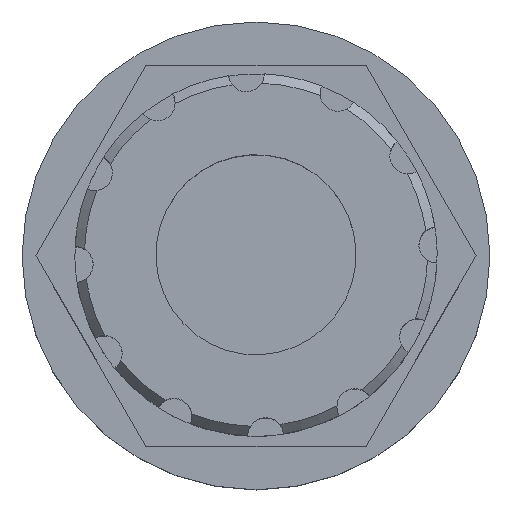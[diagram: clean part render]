
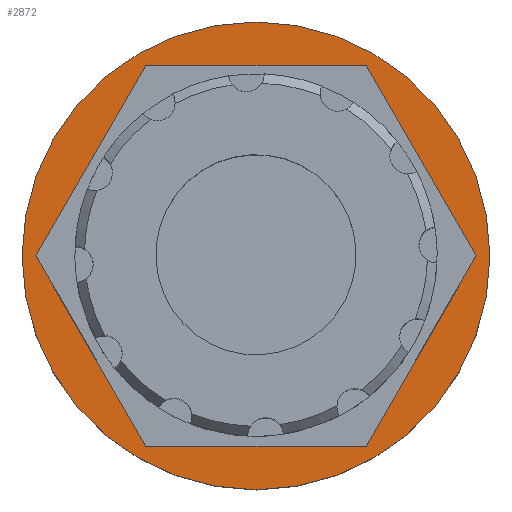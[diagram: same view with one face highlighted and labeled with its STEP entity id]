
A CAD part, top view. The second image highlights one B-rep face of the part: STEP entity #2872.
In plain terms, the highlighted planar face has unit normal (0, 0, 1).
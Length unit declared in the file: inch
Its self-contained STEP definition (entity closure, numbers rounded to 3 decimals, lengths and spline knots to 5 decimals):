
#45 = AXIS2_PLACEMENT_3D ( 'NONE', #1516, #1517, #1518 ) ;
#67 = AXIS2_PLACEMENT_3D ( 'NONE', #1639, #1640, #1641 ) ;
#103 = AXIS2_PLACEMENT_3D ( 'NONE', #219, #216, #223 ) ;
#216 = DIRECTION ( 'NONE',  ( 0., 0., 1. ) ) ;
#219 = CARTESIAN_POINT ( 'NONE',  ( -3.84531, -0.98367, -0.077 ) ) ;
#221 = PLANE ( 'NONE',  #103 ) ;
#223 = DIRECTION ( 'NONE',  ( 1., 0., 0. ) ) ;
#613 = VECTOR ( 'NONE', #1275, 39.37008 ) ;
#614 = LINE ( 'NONE', #1285, #624 ) ;
#615 = LINE ( 'NONE', #1273, #623 ) ;
#618 = LINE ( 'NONE', #1278, #626 ) ;
#621 = LINE ( 'NONE', #1279, #631 ) ;
#623 = VECTOR ( 'NONE', #1267, 39.37008 ) ;
#624 = VECTOR ( 'NONE', #1272, 39.37008 ) ;
#625 = LINE ( 'NONE', #1286, #613 ) ;
#626 = VECTOR ( 'NONE', #1269, 39.37008 ) ;
#631 = VECTOR ( 'NONE', #1276, 39.37008 ) ;
#658 = CARTESIAN_POINT ( 'NONE',  ( -3.26796, 0.01633, -0.077 ) ) ;
#665 = CARTESIAN_POINT ( 'NONE',  ( -4.42266, 0.01633, -0.077 ) ) ;
#679 = CARTESIAN_POINT ( 'NONE',  ( -2.69061, -0.98367, -0.077 ) ) ;
#714 = CARTESIAN_POINT ( 'NONE',  ( -4.42266, -1.98367, -0.077 ) ) ;
#719 = CARTESIAN_POINT ( 'NONE',  ( -3.26796, -1.98367, -0.077 ) ) ;
#809 = ORIENTED_EDGE ( 'NONE', *, *, #2216, .F. ) ;
#813 = ORIENTED_EDGE ( 'NONE', *, *, #2217, .F. ) ;
#831 = ORIENTED_EDGE ( 'NONE', *, *, #2380, .F. ) ;
#835 = ORIENTED_EDGE ( 'NONE', *, *, #2218, .F. ) ;
#853 = ORIENTED_EDGE ( 'NONE', *, *, #2214, .F. ) ;
#885 = ORIENTED_EDGE ( 'NONE', *, *, #2215, .F. ) ;
#959 = ORIENTED_EDGE ( 'NONE', *, *, #2309, .F. ) ;
#1009 = ORIENTED_EDGE ( 'NONE', *, *, #2296, .F. ) ;
#1267 = DIRECTION ( 'NONE',  ( 1., 0., 0. ) ) ;
#1269 = DIRECTION ( 'NONE',  ( 0.5, -0.866, 0. ) ) ;
#1272 = DIRECTION ( 'NONE',  ( -0.5, 0.866, 0. ) ) ;
#1273 = CARTESIAN_POINT ( 'NONE',  ( -4.42266, -1.98367, -0.077 ) ) ;
#1275 = DIRECTION ( 'NONE',  ( -0.5, -0.866, 0. ) ) ;
#1276 = DIRECTION ( 'NONE',  ( 0.5, 0.866, 0. ) ) ;
#1278 = CARTESIAN_POINT ( 'NONE',  ( -5.00001, -0.98367, -0.077 ) ) ;
#1279 = CARTESIAN_POINT ( 'NONE',  ( -3.26796, -1.98367, -0.077 ) ) ;
#1285 = CARTESIAN_POINT ( 'NONE',  ( -2.69061, -0.98367, -0.077 ) ) ;
#1286 = CARTESIAN_POINT ( 'NONE',  ( -4.42266, 0.01633, -0.077 ) ) ;
#1305 = CARTESIAN_POINT ( 'NONE',  ( -5.00001, -0.98367, -0.077 ) ) ;
#1320 = CARTESIAN_POINT ( 'NONE',  ( -2.61831, -0.98367, -0.077 ) ) ;
#1381 = CARTESIAN_POINT ( 'NONE',  ( -5.07231, -0.98367, -0.077 ) ) ;
#1516 = CARTESIAN_POINT ( 'NONE',  ( -3.84531, -0.98367, -0.077 ) ) ;
#1517 = DIRECTION ( 'NONE',  ( 0., 0., -1. ) ) ;
#1518 = DIRECTION ( 'NONE',  ( -1., 0., 0. ) ) ;
#1543 = CARTESIAN_POINT ( 'NONE',  ( -3.26796, 0.01633, -0.077 ) ) ;
#1552 = DIRECTION ( 'NONE',  ( -1., 0., 0. ) ) ;
#1639 = CARTESIAN_POINT ( 'NONE',  ( -3.84531, -0.98367, -0.077 ) ) ;
#1640 = DIRECTION ( 'NONE',  ( 0., 0., -1. ) ) ;
#1641 = DIRECTION ( 'NONE',  ( -1., 0., 0. ) ) ;
#1948 = VERTEX_POINT ( 'NONE', #665 ) ;
#1951 = VERTEX_POINT ( 'NONE', #658 ) ;
#1959 = VERTEX_POINT ( 'NONE', #679 ) ;
#1988 = VERTEX_POINT ( 'NONE', #714 ) ;
#1995 = VERTEX_POINT ( 'NONE', #719 ) ;
#2018 = VERTEX_POINT ( 'NONE', #1320 ) ;
#2022 = VERTEX_POINT ( 'NONE', #1305 ) ;
#2043 = VERTEX_POINT ( 'NONE', #1381 ) ;
#2113 = EDGE_LOOP ( 'NONE', ( #831, #1009 ) ) ;
#2141 = EDGE_LOOP ( 'NONE', ( #809, #853, #835, #813, #885, #959 ) ) ;
#2214 = EDGE_CURVE ( 'NONE', #1995, #1959, #621, .T. ) ;
#2215 = EDGE_CURVE ( 'NONE', #1948, #2022, #625, .T. ) ;
#2216 = EDGE_CURVE ( 'NONE', #1959, #1951, #614, .T. ) ;
#2217 = EDGE_CURVE ( 'NONE', #2022, #1988, #618, .T. ) ;
#2218 = EDGE_CURVE ( 'NONE', #1988, #1995, #615, .T. ) ;
#2296 = EDGE_CURVE ( 'NONE', #2018, #2043, #2441, .T. ) ;
#2309 = EDGE_CURVE ( 'NONE', #1951, #1948, #2473, .T. ) ;
#2380 = EDGE_CURVE ( 'NONE', #2043, #2018, #2515, .T. ) ;
#2441 = CIRCLE ( 'NONE', #45, 1.227 ) ;
#2473 = LINE ( 'NONE', #1543, #2479 ) ;
#2479 = VECTOR ( 'NONE', #1552, 39.37008 ) ;
#2515 = CIRCLE ( 'NONE', #67, 1.227 ) ;
#2663 = FACE_OUTER_BOUND ( 'NONE', #2113, .T. ) ;
#2669 = FACE_BOUND ( 'NONE', #2141, .T. ) ;
#2872 = ADVANCED_FACE ( 'NONE', ( #2663, #2669 ), #221, .T. ) ;
